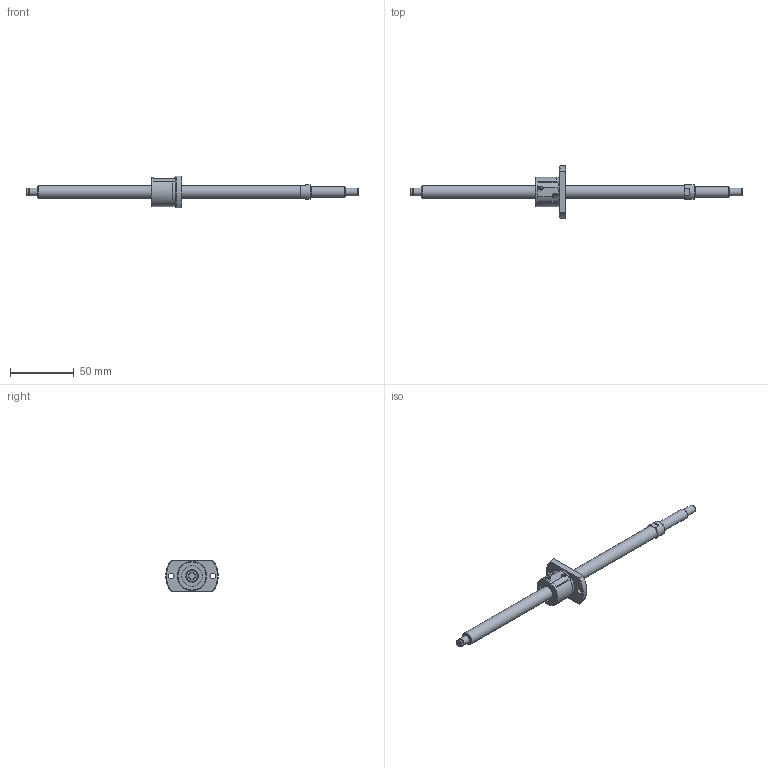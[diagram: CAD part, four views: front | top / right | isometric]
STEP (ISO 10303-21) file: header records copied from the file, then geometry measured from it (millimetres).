
FILE_DESCRIPTION(/* description */ ('STEP AP214'),/* implementation_level */ '2;1');
FILE_NAME(/* name */ 'SG1002-202R260C5B0X(89)',/* time_stamp */ '2026-07-24T15:14:02+02:00',/* author */ ('License CC BY-ND 4.0'),/* organization */ ('CADENAS'),/* preprocessor_version */ 'ST-DEVELOPER v20',/* originating_system */ 'PARTsolutions',/* authorisation */ ' ');
FILE_SCHEMA (('AUTOMOTIVE_DESIGN {1 0 10303 214 3 1 1}'));
Length unit declared in the file: millimetre
Products named in the file (3): SG1002-202R260C5B0X(89); SG1002-202R260C5B_shaft; SG1002 C5_nut
Assembly tree (2 placements, depth 2):
  SG1002-202R260C5B0X(89)
    SG1002-202R260C5B_shaft
    SG1002 C5_nut
Bounding box: 260 x 41 x 25 mm (x, y, z)
Volume: 28999.9 mm3; surface area: 12570.8 mm2
Topology: 2 solids, 2 shells, 79 faces, 188 edges, 123 vertices
Faces by surface type: plane 38, cylinder 26, cone 14, torus 1
Full cylindrical faces by diameter (mm): 4.5 x2, 5.7 x1, 6 x3, 8 x1, 10 x2, 11.5 x1, 16 x2, 22.6 x1, 23 x1
Entity records: 2197 total; most frequent: CARTESIAN_POINT 408, DIRECTION 374, ORIENTED_EDGE 306, AXIS2_PLACEMENT_3D 157, EDGE_CURVE 153, EDGE_LOOP 120, FACE_BOUND 120, VERTEX_POINT 113
